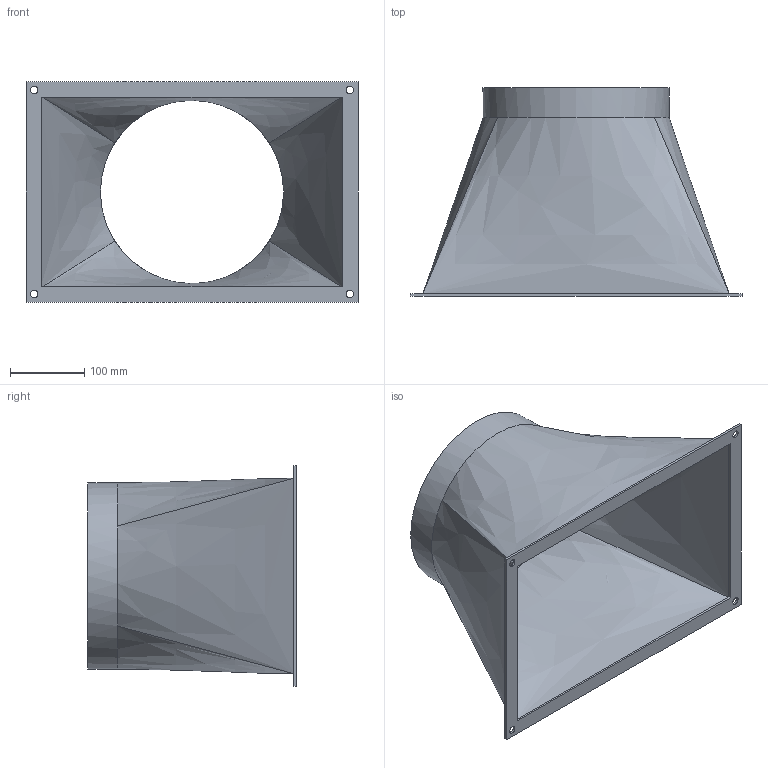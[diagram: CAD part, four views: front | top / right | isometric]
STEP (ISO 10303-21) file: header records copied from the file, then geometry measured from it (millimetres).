
FILE_DESCRIPTION(/* description */ (''),/* implementation_level */ '2;1');
FILE_NAME(/* name */ 'Z:\Output\KWL-US_800_S-08339-001.stp',/* time_stamp */ '2020-05-11T10:16:15+02:00',/* author */ ('engineering1'),/* organization */ (''),/* preprocessor_version */ 'ST-DEVELOPER v17.2',/* originating_system */ 'Autodesk Inventor 2019',/* authorisation */ '');
FILE_SCHEMA (('AUTOMOTIVE_DESIGN { 1 0 10303 214 3 1 1 }'));
Length unit declared in the file: millimetre
Products named in the file (1): KWLUS-1
Bounding box: 446 x 280 x 296 mm (x, y, z)
Volume: 660384.8 mm3; surface area: 639160.1 mm2
Topology: 1 solids, 1 shells, 26 faces, 74 edges, 52 vertices
Faces by surface type: plane 12, bspline 8, cylinder 6
Full cylindrical faces by diameter (mm): 10 x4, 246 x1, 250 x1
Entity records: 1515 total; most frequent: CARTESIAN_POINT 812, ORIENTED_EDGE 148, DIRECTION 110, EDGE_CURVE 74, VERTEX_POINT 52, EDGE_LOOP 38, AXIS2_PLACEMENT_3D 38, LINE 34
